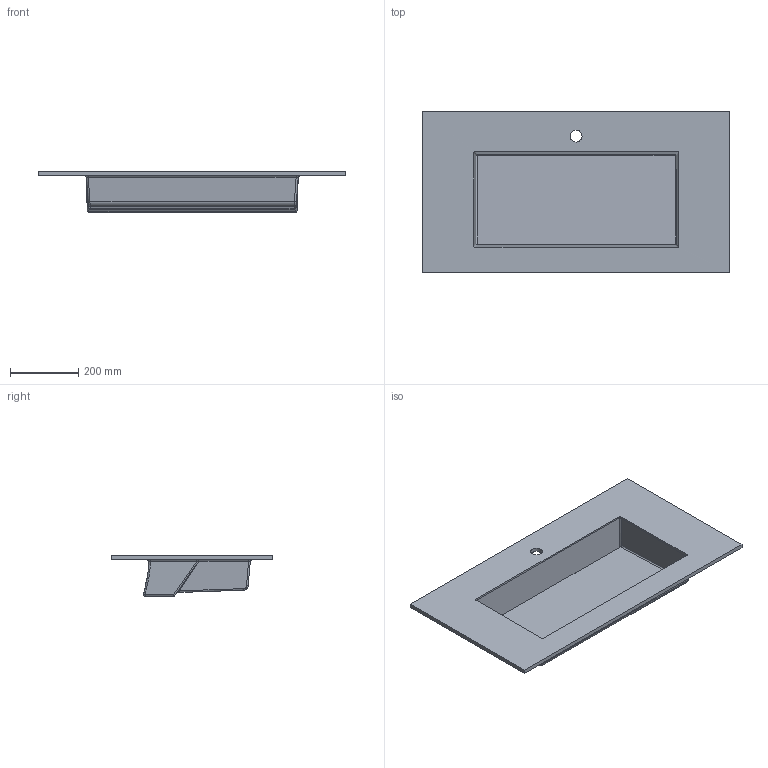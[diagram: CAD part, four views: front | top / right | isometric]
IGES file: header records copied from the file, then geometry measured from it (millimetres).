
Start section: Data from Parasolid IGES Translator 19.0.9, Copyright(c) 2006 Siemens PL M Software. All Rights Reserved.
Global section: file name: noorth-top-H 1,2 D 47,3 W 90_6530.igs; native system: By Siemens PLM Incorporated; preprocessor: XPlus GENERIC/IGES 19.0.9; author: Noname; organization: Noname; date: 20200603.094015; units: metre
Bounding box: 900 x 473 x 118.64 mm (x, y, z)
Volume: 7231321.8 mm3; surface area: 1221387 mm2
Topology: 1 solids, 1 shells, 105 faces, 258 edges, 149 vertices
Faces by surface type: bspline 42, cylinder 34, plane 29
Full cylindrical faces by diameter (mm): 35 x1
